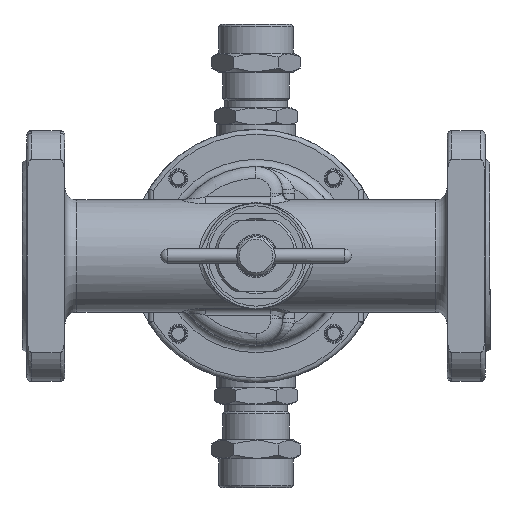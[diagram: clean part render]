
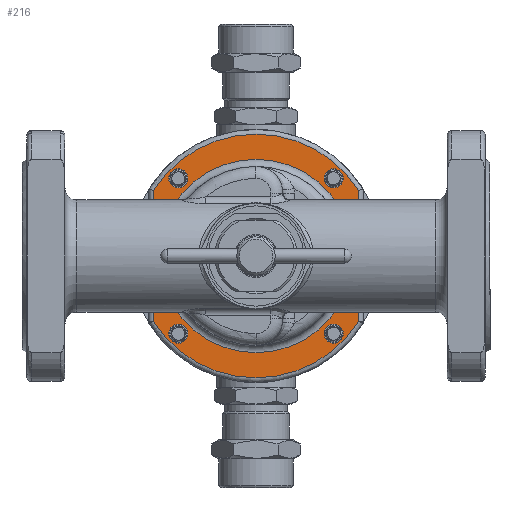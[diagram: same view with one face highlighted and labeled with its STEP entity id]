
A CAD part, front view. The second image highlights one B-rep face of the part: STEP entity #216.
In plain terms, the highlighted planar face has unit normal (0, -1, 0).
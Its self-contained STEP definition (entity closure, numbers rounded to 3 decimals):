
#216=ADVANCED_FACE('',(#5286,#5288,#5290,#5292,#5294,#5296),#5298,.F.);
#5286=FACE_BOUND('',#5287,.T.);
#5287=EDGE_LOOP('',(#22049));
#5288=FACE_BOUND('',#5289,.T.);
#5289=EDGE_LOOP('',(#22050));
#5290=FACE_BOUND('',#5291,.T.);
#5291=EDGE_LOOP('',(#22051));
#5292=FACE_BOUND('',#5293,.T.);
#5293=EDGE_LOOP('',(#22052));
#5294=FACE_BOUND('',#5295,.T.);
#5295=EDGE_LOOP('',(#22053));
#5296=FACE_OUTER_BOUND('',#5297,.T.);
#5297=EDGE_LOOP('',(#22054,#22055,#22056,#22057));
#5298=PLANE('',#5299);
#5299=AXIS2_PLACEMENT_3D('',#5300,#5301,#5302);
#5300=CARTESIAN_POINT('',(0.,30.,0.));
#5301=DIRECTION('',(0.,1.,0.));
#5302=DIRECTION('',(-1.,0.,0.));
#22049=ORIENTED_EDGE('',*,*,#33833,.F.);
#22050=ORIENTED_EDGE('',*,*,#33834,.T.);
#22051=ORIENTED_EDGE('',*,*,#33835,.F.);
#22052=ORIENTED_EDGE('',*,*,#33836,.F.);
#22053=ORIENTED_EDGE('',*,*,#33837,.F.);
#22054=ORIENTED_EDGE('',*,*,#33794,.F.);
#22055=ORIENTED_EDGE('',*,*,#33802,.F.);
#22056=ORIENTED_EDGE('',*,*,#33799,.F.);
#22057=ORIENTED_EDGE('',*,*,#33797,.F.);
#33794=EDGE_CURVE('',#38824,#38826,#38827,.T.);
#33797=EDGE_CURVE('',#38826,#38830,#38831,.T.);
#33799=EDGE_CURVE('',#38830,#38833,#38834,.T.);
#33802=EDGE_CURVE('',#38833,#38824,#38837,.T.);
#33833=EDGE_CURVE('',#38892,#38892,#38893,.T.);
#33834=EDGE_CURVE('',#38894,#38894,#38895,.F.);
#33835=EDGE_CURVE('',#38896,#38896,#38897,.T.);
#33836=EDGE_CURVE('',#38898,#38898,#38899,.T.);
#33837=EDGE_CURVE('',#38900,#38900,#38901,.T.);
#38824=VERTEX_POINT('',#47631);
#38826=VERTEX_POINT('',#47646);
#38827=CIRCLE('',#47647,51.);
#38830=VERTEX_POINT('',#47679);
#38831=LINE('',#47680,#47681);
#38833=VERTEX_POINT('',#47702);
#38834=CIRCLE('',#47703,51.);
#38837=LINE('',#47740,#47741);
#38892=VERTEX_POINT('',#48259);
#38893=CIRCLE('',#48260,4.);
#38894=VERTEX_POINT('',#48264);
#38895=CIRCLE('',#48265,4.);
#38896=VERTEX_POINT('',#48269);
#38897=CIRCLE('',#48270,40.5);
#38898=VERTEX_POINT('',#48274);
#38899=CIRCLE('',#48275,4.);
#38900=VERTEX_POINT('',#48279);
#38901=CIRCLE('',#48280,4.);
#47631=CARTESIAN_POINT('',(43.,30.,-27.423));
#47646=CARTESIAN_POINT('',(-43.,30.,-27.423));
#47647=AXIS2_PLACEMENT_3D('',#47648,#47649,#47650);
#47648=CARTESIAN_POINT('',(0.,30.,0.));
#47649=DIRECTION('',(0.,1.,0.));
#47650=DIRECTION('',(0.843,0.,-0.538));
#47679=CARTESIAN_POINT('',(-43.,30.,27.423));
#47680=CARTESIAN_POINT('',(-43.,30.,-27.423));
#47681=VECTOR('',#47682,1.);
#47682=DIRECTION('',(0.,0.,1.));
#47702=CARTESIAN_POINT('',(43.,30.,27.423));
#47703=AXIS2_PLACEMENT_3D('',#47704,#47705,#47706);
#47704=CARTESIAN_POINT('',(0.,30.,0.));
#47705=DIRECTION('',(0.,1.,0.));
#47706=DIRECTION('',(-0.843,0.,0.538));
#47740=CARTESIAN_POINT('',(43.,30.,27.423));
#47741=VECTOR('',#47742,1.);
#47742=DIRECTION('',(0.,0.,-1.));
#48259=CARTESIAN_POINT('',(-28.593,30.,33.253));
#48260=AXIS2_PLACEMENT_3D('',#48261,#48262,#48263);
#48261=CARTESIAN_POINT('',(-32.527,30.,32.527));
#48262=DIRECTION('',(0.,-1.,0.));
#48263=DIRECTION('',(0.983,0.,0.181));
#48264=CARTESIAN_POINT('',(28.593,30.,-33.253));
#48265=AXIS2_PLACEMENT_3D('',#48266,#48267,#48268);
#48266=CARTESIAN_POINT('',(32.527,30.,-32.527));
#48267=DIRECTION('',(0.,-1.,0.));
#48268=DIRECTION('',(-0.983,0.,-0.181));
#48269=CARTESIAN_POINT('',(-40.5,30.,0.));
#48270=AXIS2_PLACEMENT_3D('',#48271,#48272,#48273);
#48271=CARTESIAN_POINT('',(0.,30.,0.));
#48272=DIRECTION('',(0.,-1.,0.));
#48273=DIRECTION('',(-1.,0.,0.));
#48274=CARTESIAN_POINT('',(-33.253,30.,-28.593));
#48275=AXIS2_PLACEMENT_3D('',#48276,#48277,#48278);
#48276=CARTESIAN_POINT('',(-32.527,30.,-32.527));
#48277=DIRECTION('',(0.,-1.,0.));
#48278=DIRECTION('',(-0.181,0.,0.983));
#48279=CARTESIAN_POINT('',(33.253,30.,28.593));
#48280=AXIS2_PLACEMENT_3D('',#48281,#48282,#48283);
#48281=CARTESIAN_POINT('',(32.527,30.,32.527));
#48282=DIRECTION('',(0.,-1.,0.));
#48283=DIRECTION('',(0.181,0.,-0.983));
